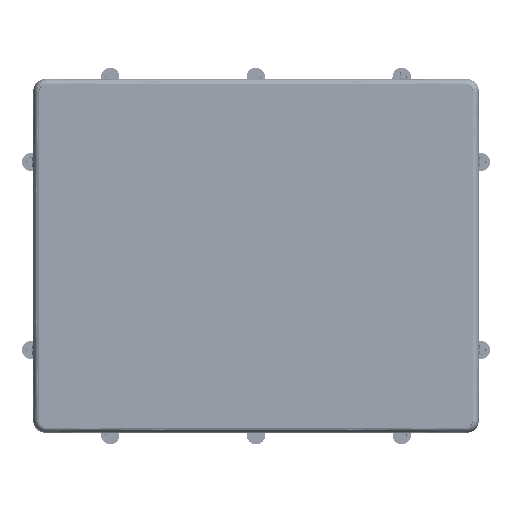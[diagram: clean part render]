
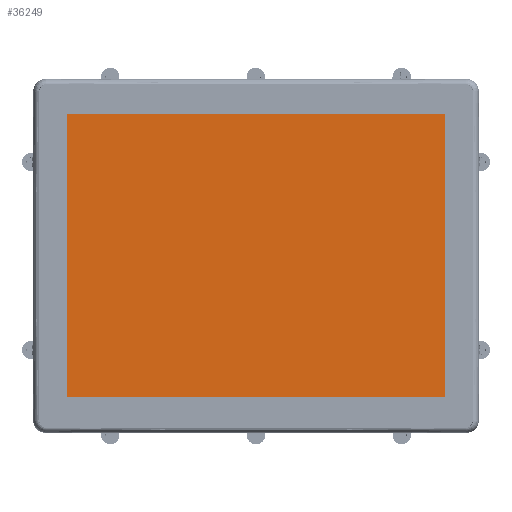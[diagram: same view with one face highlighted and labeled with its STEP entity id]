
A CAD part, top view. The second image highlights one B-rep face of the part: STEP entity #36249.
In plain terms, the highlighted planar face has unit normal (0, 0, 1).
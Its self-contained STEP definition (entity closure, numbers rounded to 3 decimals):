
#11935=DIRECTION('',(0.,-1.,0.));
#11936=VECTOR('',#11935,228.9);
#11937=CARTESIAN_POINT('',(-152.5,114.45,5.92));
#11938=LINE('',#11937,#11936);
#11951=DIRECTION('',(1.,0.,0.));
#11952=VECTOR('',#11951,305.);
#11953=CARTESIAN_POINT('',(-152.5,-114.45,5.92));
#11954=LINE('',#11953,#11952);
#11963=DIRECTION('',(0.,1.,0.));
#11964=VECTOR('',#11963,228.9);
#11965=CARTESIAN_POINT('',(152.5,-114.45,5.92));
#11966=LINE('',#11965,#11964);
#11975=DIRECTION('',(-1.,0.,0.));
#11976=VECTOR('',#11975,305.);
#11977=CARTESIAN_POINT('',(152.5,114.45,5.92));
#11978=LINE('',#11977,#11976);
#21379=CARTESIAN_POINT('',(152.5,114.45,5.92));
#21380=CARTESIAN_POINT('',(-152.5,114.45,5.92));
#21381=VERTEX_POINT('',#21379);
#21382=VERTEX_POINT('',#21380);
#21383=CARTESIAN_POINT('',(152.5,-114.45,5.92));
#21384=VERTEX_POINT('',#21383);
#21385=CARTESIAN_POINT('',(-152.5,-114.45,5.92));
#21386=VERTEX_POINT('',#21385);
#36238=CARTESIAN_POINT('',(0.,0.,5.92));
#36239=DIRECTION('',(0.,0.,1.));
#36240=DIRECTION('',(1.,0.,0.));
#36241=AXIS2_PLACEMENT_3D('',#36238,#36239,#36240);
#36242=PLANE('',#36241);
#36243=ORIENTED_EDGE('',*,*,#36226,.F.);
#36244=ORIENTED_EDGE('',*,*,#36206,.F.);
#36245=ORIENTED_EDGE('',*,*,#36185,.F.);
#36246=ORIENTED_EDGE('',*,*,#36164,.F.);
#36247=EDGE_LOOP('',(#36243,#36244,#36245,#36246));
#36248=FACE_OUTER_BOUND('',#36247,.F.);
#36249=ADVANCED_FACE('',(#36248),#36242,.T.);
#36164=EDGE_CURVE('',#21382,#21386,#11938,.T.);
#36185=EDGE_CURVE('',#21386,#21384,#11954,.T.);
#36206=EDGE_CURVE('',#21384,#21381,#11966,.T.);
#36226=EDGE_CURVE('',#21381,#21382,#11978,.T.);
